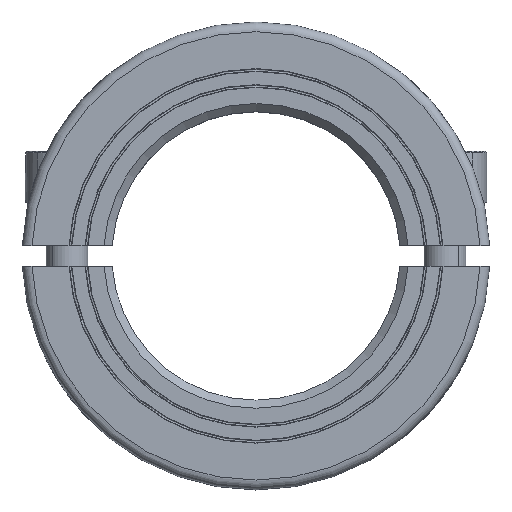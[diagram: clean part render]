
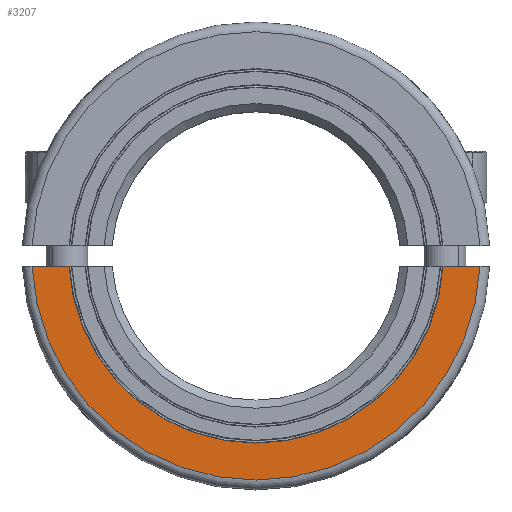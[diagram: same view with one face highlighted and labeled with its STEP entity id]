
A CAD part, top view. The second image highlights one B-rep face of the part: STEP entity #3207.
In plain terms, the highlighted planar face has unit normal (0, 0, 1).
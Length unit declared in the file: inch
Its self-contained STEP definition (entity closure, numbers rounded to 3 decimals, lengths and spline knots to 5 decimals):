
#2668=CARTESIAN_POINT('',(1.37574,-0.0625,
0.74803));
#2678=DIRECTION('',(1.,0.,0.));
#2679=VECTOR('',#2678,0.22705);
#2680=CARTESIAN_POINT('',(1.14869,-0.06253,
0.74803));
#2681=LINE('',#2680,#2679);
#2704=CARTESIAN_POINT('',(0.,0.,0.74803));
#2705=DIRECTION('',(0.,0.,-1.));
#2706=DIRECTION('',(0.999,-0.054,0.));
#2707=AXIS2_PLACEMENT_3D('',#2704,#2705,#2706);
#2709=CARTESIAN_POINT('',(0.,0.,0.74803));
#2710=DIRECTION('',(0.,0.,1.));
#2711=DIRECTION('',(-0.999,-0.045,0.));
#2712=AXIS2_PLACEMENT_3D('',#2709,#2710,#2711);
#2714=CARTESIAN_POINT('',(-1.14869,-0.06252,
0.74803));
#2721=DIRECTION('',(1.,0.,0.));
#2722=VECTOR('',#2721,0.22704);
#2723=CARTESIAN_POINT('',(-1.37574,-0.0625,
0.74803));
#2724=LINE('',#2723,#2722);
#3003=VERTEX_POINT('',#2714);
#3005=CARTESIAN_POINT('',(-1.37574,-0.0625,
0.74803));
#3006=VERTEX_POINT('',#3005);
#3048=VERTEX_POINT('',#2668);
#3049=CARTESIAN_POINT('',(1.14869,-0.06253,
0.74803));
#3050=VERTEX_POINT('',#3049);
#3194=CARTESIAN_POINT('',(0.,0.,0.74803));
#3195=DIRECTION('',(0.,0.,1.));
#3196=DIRECTION('',(0.707,-0.707,0.));
#3197=AXIS2_PLACEMENT_3D('',#3194,#3195,#3196);
#3198=PLANE('',#3197);
#3200=ORIENTED_EDGE('',*,*,#3199,.T.);
#3201=ORIENTED_EDGE('',*,*,#3180,.F.);
#3202=ORIENTED_EDGE('',*,*,#3131,.T.);
#3204=ORIENTED_EDGE('',*,*,#3203,.F.);
#3205=EDGE_LOOP('',(#3200,#3201,#3202,#3204));
#3206=FACE_OUTER_BOUND('',#3205,.F.);
#2708=CIRCLE('',#2707,1.15039);
#2713=CIRCLE('',#2712,1.37717);
#3131=EDGE_CURVE('',#3050,#3048,#2681,.T.);
#3180=EDGE_CURVE('',#3050,#3003,#2708,.T.);
#3199=EDGE_CURVE('',#3006,#3003,#2724,.T.);
#3203=EDGE_CURVE('',#3006,#3048,#2713,.T.);
#3207=ADVANCED_FACE('',(#3206),#3198,.T.);
